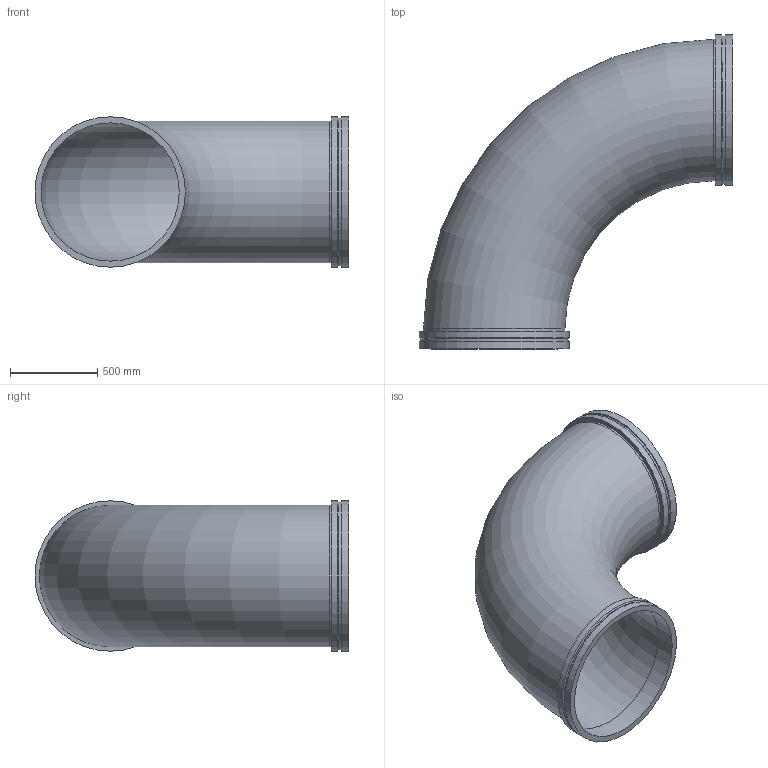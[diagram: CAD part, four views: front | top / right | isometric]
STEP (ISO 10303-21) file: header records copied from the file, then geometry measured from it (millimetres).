
FILE_DESCRIPTION(/* description */ ('VIC 90 DEG ELBOW No W100 VR','CAx-IF Rec.Pracs.---Representation and Presentation of Product Manufacturing Information (PMI)---4.0---2014-10-13'),/* implementation_level */ '2;1');
FILE_NAME(/* name */ 'C:\Users\kkamble\AppData\Roaming\Autodesk\ApplicationPlugins\Back Up\Victaulic_Vic-Ring_Elbow 90 Deg LR_No W100 VR (AGR)\Victaulic_Vic-Ring_Elbow 90 Deg LR_No W100 VR (AGR)_32 (800).stp',/* time_stamp */ '2020-09-10T11:44:15+05:00',/* author */ ('cps_temp'),/* organization */ ('Victaulic'),/* preprocessor_version */ 'ST-DEVELOPER v17.2',/* originating_system */ 'Autodesk Inventor 2019',/* authorisation */ '');
FILE_SCHEMA (('AP242_MANAGED_MODEL_BASED_3D_ENGINEERING_MIM_LF { 1 0 10303 442 1 1 4 }'));
Length unit declared in the file: inch
Products named in the file (1): W100 VR-32.0
Bounding box: 1803.4 x 1803.4 x 863.6 mm (x, y, z)
Volume: 65910062.4 mm3; surface area: 11525301.4 mm2
Topology: 1 solids, 1 shells, 20 faces, 51 edges, 37 vertices
Faces by surface type: cylinder 10, plane 6, cone 2, torus 2
Full cylindrical faces by diameter (mm): 793.75 x2, 812.8 x2, 849.122 x2, 863.6 x4
Entity records: 802 total; most frequent: DIRECTION 158, CARTESIAN_POINT 126, ORIENTED_EDGE 102, AXIS2_PLACEMENT_3D 73, EDGE_CURVE 51, CIRCLE 39, VERTEX_POINT 37, EDGE_LOOP 26
